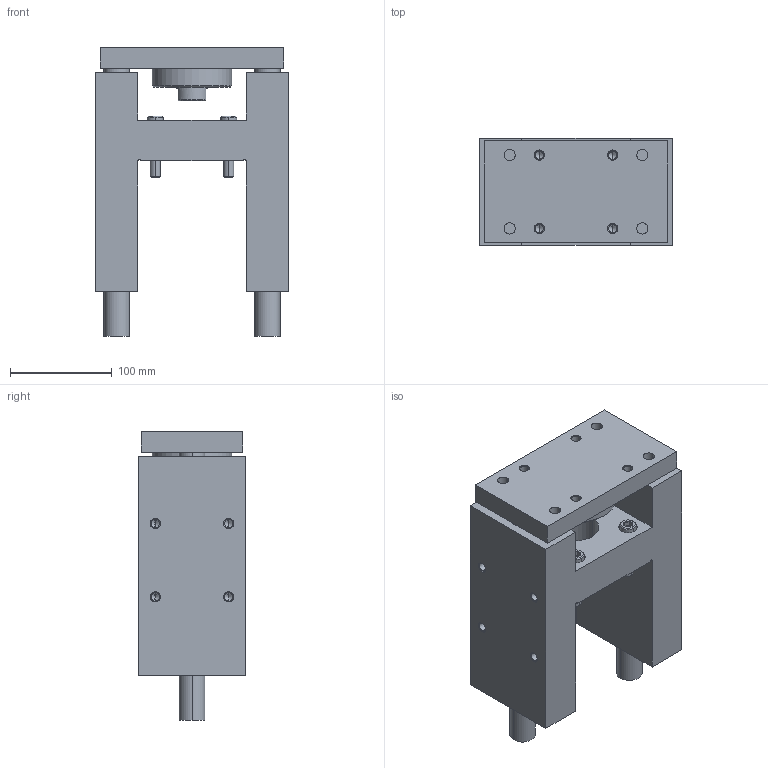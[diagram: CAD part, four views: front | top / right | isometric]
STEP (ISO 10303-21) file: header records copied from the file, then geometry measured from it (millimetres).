
FILE_DESCRIPTION (( 'STEP AP203' ), '1' );
FILE_NAME ('GB80-25.STEP', '2020-04-24T13:25:41', ( '' ), ( '' ), 'SwSTEP 2.0', 'SolidWorks 2019', '' );
FILE_SCHEMA (( 'CONFIG_CONTROL_DESIGN' ));
Length unit declared in the file: millimetre
Products named in the file (1): GB80-25
Bounding box: 189 x 105 x 283 mm (x, y, z)
Volume: 2720979.2 mm3; surface area: 323598.6 mm2
Topology: 6 solids, 6 shells, 329 faces, 728 edges, 412 vertices
Faces by surface type: cone 134, cylinder 98, plane 97
Entity records: 9631 total; most frequent: CARTESIAN_POINT 2242, DIRECTION 1662, ORIENTED_EDGE 1392, EDGE_CURVE 696, AXIS2_PLACEMENT_3D 664, VERTEX_POINT 412, EDGE_LOOP 392, VECTOR 334
